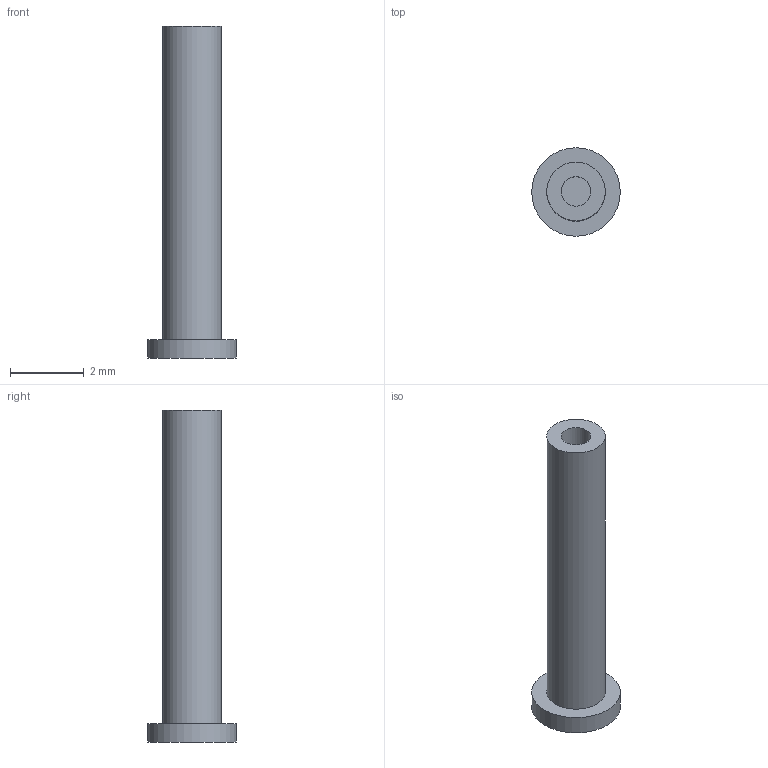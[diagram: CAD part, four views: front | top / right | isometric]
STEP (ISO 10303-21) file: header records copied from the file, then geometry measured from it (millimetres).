
FILE_DESCRIPTION(('Open CASCADE Model'),'2;1');
FILE_NAME('Open CASCADE Shape Model','2026-11-11T16:54:55',('Author'),( 'Open CASCADE'),'Open CASCADE STEP processor 7.9','Open CASCADE 7.9' ,'Unknown');
FILE_SCHEMA(('AUTOMOTIVE_DESIGN { 1 0 10303 214 1 1 1 1 }'));
Length unit declared in the file: millimetre
Products named in the file (1): Open CASCADE STEP translator 7.9 9
Bounding box: 2.4 x 2.4 x 9 mm (x, y, z)
Volume: 18.1 mm3; surface area: 60.2 mm2
Topology: 1 solids, 1 shells, 7 faces, 9 edges, 6 vertices
Faces by surface type: plane 4, cylinder 3
Full cylindrical faces by diameter (mm): 0.8 x1, 1.588 x1, 2.4 x1
Entity records: 279 total; most frequent: DIRECTION 48, CARTESIAN_POINT 47, ORIENTED_EDGE 18, PCURVE 18, DEFINITIONAL_REPRESENTATION 18, LINE 15, VECTOR 15, AXIS2_PLACEMENT_3D 14
